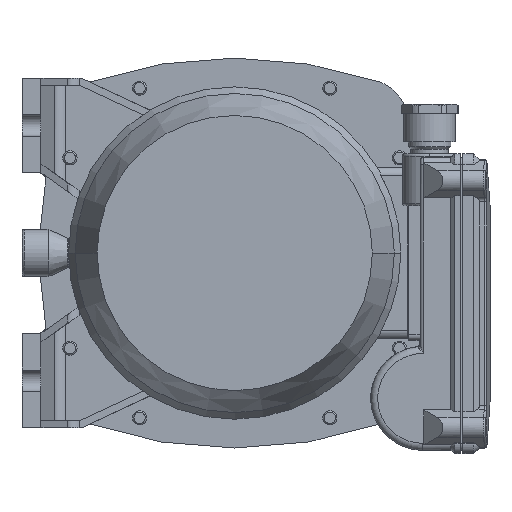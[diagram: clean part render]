
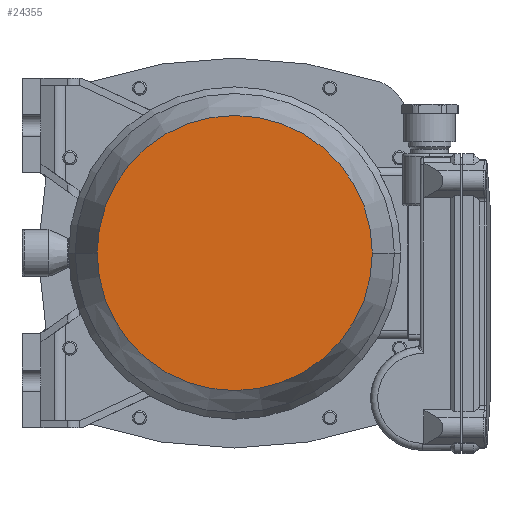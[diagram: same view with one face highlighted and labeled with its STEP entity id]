
A CAD part, front view. The second image highlights one B-rep face of the part: STEP entity #24355.
In plain terms, the highlighted planar face has unit normal (0, -1, 0) as drawn and (1, 0, 0) by its records, which use the part's own axes.
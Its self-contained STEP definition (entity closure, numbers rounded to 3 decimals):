
#18472=CARTESIAN_POINT('',(181.,0.,0.));
#18473=DIRECTION('',(-1.,0.,0.));
#18474=DIRECTION('',(0.,1.,0.));
#18475=AXIS2_PLACEMENT_3D('',#18472,#18473,#18474);
#18480=CARTESIAN_POINT('',(181.,0.,0.));
#18481=DIRECTION('',(1.,0.,0.));
#18482=DIRECTION('',(0.,1.,0.));
#18483=AXIS2_PLACEMENT_3D('',#18480,#18481,#18482);
#19759=CARTESIAN_POINT('',(181.,58.207,0.));
#19761=VERTEX_POINT('',#19759);
#19769=CARTESIAN_POINT('',(181.,-58.207,0.));
#19771=VERTEX_POINT('',#19769);
#24346=CARTESIAN_POINT('',(181.,0.,0.));
#24347=DIRECTION('',(1.,0.,0.));
#24348=DIRECTION('',(0.,-1.,0.));
#24349=AXIS2_PLACEMENT_3D('',#24346,#24347,#24348);
#24350=PLANE('',#24349);
#24351=ORIENTED_EDGE('',*,*,#24328,.T.);
#24352=ORIENTED_EDGE('',*,*,#24339,.F.);
#24353=EDGE_LOOP('',(#24351,#24352));
#24354=FACE_OUTER_BOUND('',#24353,.F.);
#18476=CIRCLE('',#18475,58.207);
#18484=CIRCLE('',#18483,58.207);
#24328=EDGE_CURVE('',#19761,#19771,#18476,.T.);
#24339=EDGE_CURVE('',#19761,#19771,#18484,.T.);
#24355=ADVANCED_FACE('',(#24354),#24350,.T.);
